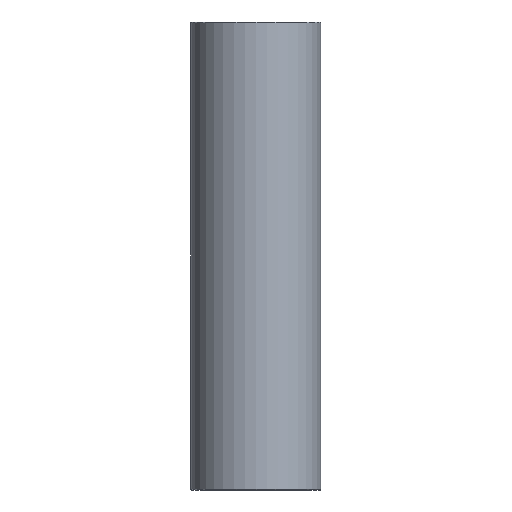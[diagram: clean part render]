
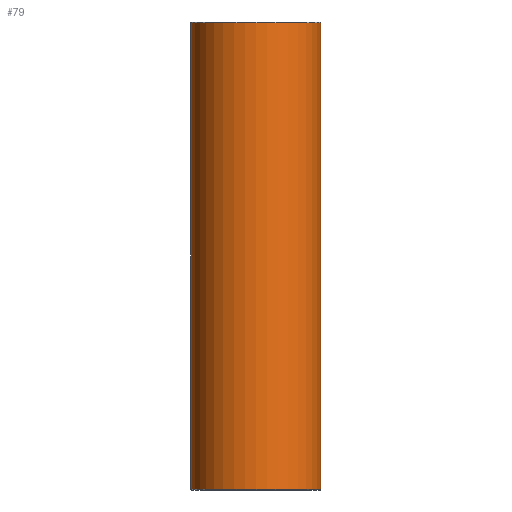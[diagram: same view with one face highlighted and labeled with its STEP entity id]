
A CAD part, front view. The second image highlights one B-rep face of the part: STEP entity #79.
In plain terms, the highlighted cylindrical face has radius 25 mm (diameter 50 mm), a full revolution.
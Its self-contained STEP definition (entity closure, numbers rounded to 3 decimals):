
#79=ADVANCED_FACE('',(#96,#97),#98,.T.);
#96=FACE_OUTER_BOUND('',#120,.T.);
#97=FACE_OUTER_BOUND('',#121,.T.);
#98=CYLINDRICAL_SURFACE('',#122,25.0);
#120=EDGE_LOOP('',(#152));
#121=EDGE_LOOP('',(#153));
#122=AXIS2_PLACEMENT_3D('',#154,#155,#156);
#152=ORIENTED_EDGE('',*,*,#178,.T.);
#153=ORIENTED_EDGE('',*,*,#177,.T.);
#154=CARTESIAN_POINT('',(0.,0.0,180.0));
#155=DIRECTION('',(0.0,0.0,-1.0));
#156=DIRECTION('',(-1.0,0.0,0.0));
#177=EDGE_CURVE('',#190,#190,#191,.T.);
#178=EDGE_CURVE('',#192,#192,#193,.F.);
#190=VERTEX_POINT('',#206);
#191=CIRCLE('',#207,25.0);
#192=VERTEX_POINT('',#208);
#193=CIRCLE('',#209,25.0);
#206=CARTESIAN_POINT('',(25.0,0.0,0.2));
#207=AXIS2_PLACEMENT_3D('',#227,#228,#229);
#208=CARTESIAN_POINT('',(25.0,0.,179.8));
#209=AXIS2_PLACEMENT_3D('',#230,#231,#232);
#227=CARTESIAN_POINT('',(0.,0.0,0.2));
#228=DIRECTION('',(0.0,0.0,1.0));
#229=DIRECTION('',(1.0,0.0,0.0));
#230=CARTESIAN_POINT('',(0.,0.0,179.8));
#231=DIRECTION('',(0.0,0.0,1.0));
#232=DIRECTION('',(1.0,0.0,0.0));
